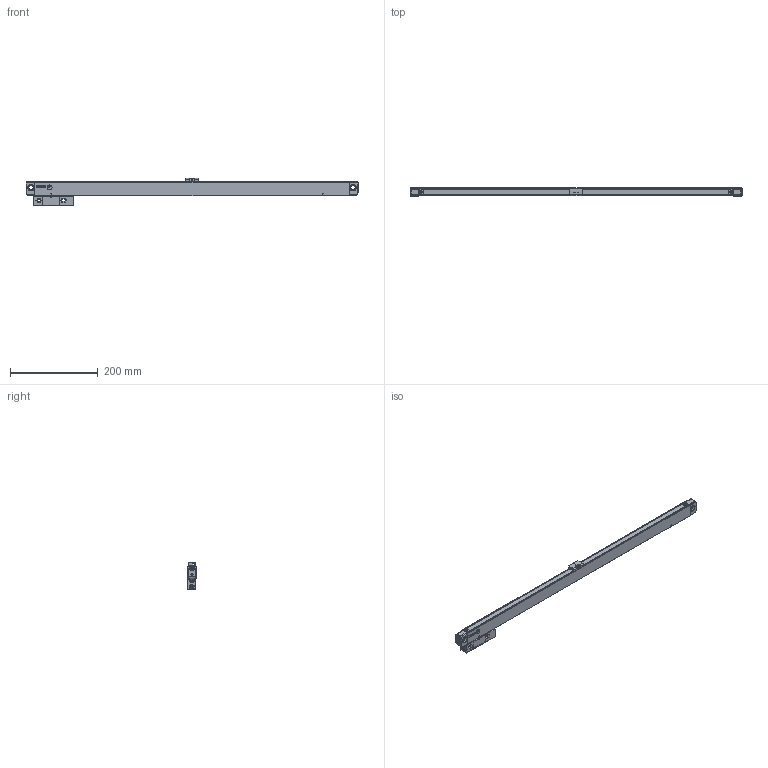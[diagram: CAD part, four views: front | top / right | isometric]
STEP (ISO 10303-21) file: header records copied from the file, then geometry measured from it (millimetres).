
FILE_DESCRIPTION(('Creo Elements/Direct Modeling STEP Export'),'2;1');
FILE_NAME('Regla_S2-620.stp','2018-11-06T17:49:23',(''),(''),'Creo Elements/Direct Modeling STEP processor for AP214 (Solid Model)','Creo Elements/Direct Modeling 19.0G 27-Nov-2017 (C) Parametric Technology GmbH','');
FILE_SCHEMA(('AUTOMOTIVE_DESIGN { 1 0 10303 214 1 1 1 1 }'));
Length unit declared in the file: millimetre
Products named in the file (4): REGLA_S-620; SOPORTE_INTERMEDIO_S; CABEZA_RANURADA_REGLA_S; REGLA_S2-620
Assembly tree (3 placements, depth 2):
  REGLA_S2-620
    CABEZA_RANURADA_REGLA_S
    SOPORTE_INTERMEDIO_S
    REGLA_S-620
Bounding box: 758 x 18.3 x 61.8 mm (x, y, z)
Volume: 426359.8 mm3; surface area: 116336.9 mm2
Topology: 3 solids, 8 shells, 814 faces, 2120 edges, 1372 vertices
Faces by surface type: plane 372, cylinder 259, cone 132, bspline 38, torus 6, sphere 4, extrusion 3
Entity records: 31462 total; most frequent: CARTESIAN_POINT 7184, ORIENTED_EDGE 4212, DIRECTION 3599, EDGE_CURVE 2106, VERTEX_POINT 1372, AXIS2_PLACEMENT_3D 1202, VECTOR 1195, LINE 1192
